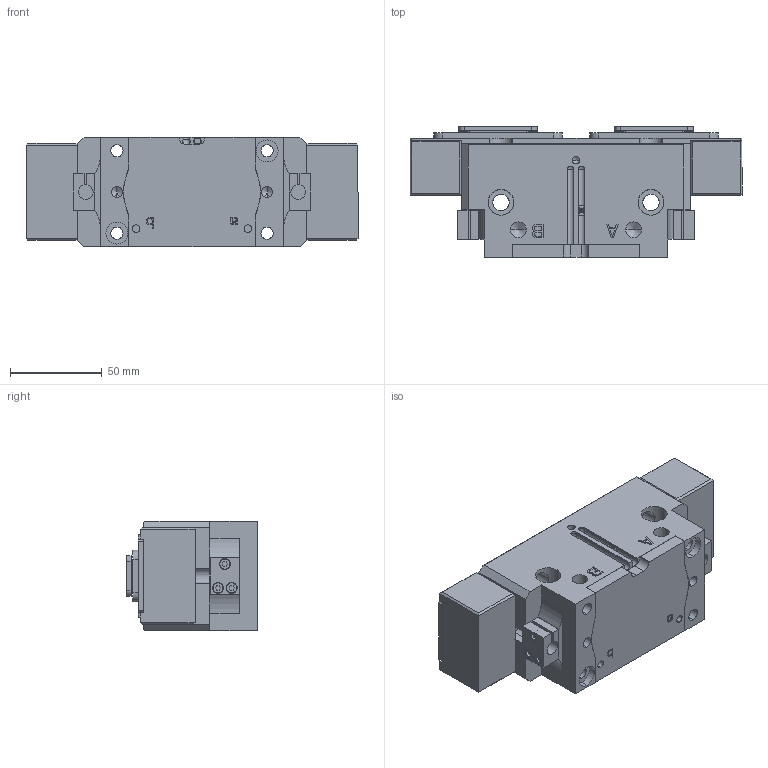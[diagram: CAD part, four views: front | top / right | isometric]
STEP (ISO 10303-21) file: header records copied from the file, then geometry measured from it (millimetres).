
FILE_DESCRIPTION (( 'STEP AP214' ), '1' );
FILE_NAME ('FPT125A-1-SD.STEP', '2021-09-18T04:30:25', ( 'DEEP' ), ( 'Microsoft' ), 'SwSTEP 2.0', 'SolidWorks 2016', '' );
FILE_SCHEMA (( 'AUTOMOTIVE_DESIGN' ));
Length unit declared in the file: millimetre
Products named in the file (26): FPT 125A-1-SD-001; FPT 125A-1-001; FPT 125A-1-SD-002; FPT 125A-1-002; FPT 125A-1-SD-003; FPT 125A-1-003; FPT 125A-1-SD-004; FPT 125A-1-004; FPT 125A-1-005; FPT125A-1-SD; 蚾饜极3^FPT125A-1
Assembly tree (15 placements, depth 4):
  FPT 125A-1-SD-001
  FPT 125A-1-SD-002
  FPT 125A-1-SD-003
  FPT 125A-1-SD-004
  FPT 125A-1-004
Bounding box: 181.4 x 71.4 x 60 mm (x, y, z)
Volume: 508926.4 mm3; surface area: 127679.1 mm2
Topology: 14 solids, 14 shells, 782 faces, 2058 edges, 1321 vertices
Faces by surface type: plane 467, cylinder 233, cone 76, bspline 6
Entity records: 22640 total; most frequent: CARTESIAN_POINT 4308, DIRECTION 3344, ORIENTED_EDGE 3320, EDGE_CURVE 1660, LINE 1194, VECTOR 1194, VERTEX_POINT 1091, AXIS2_PLACEMENT_3D 1075
